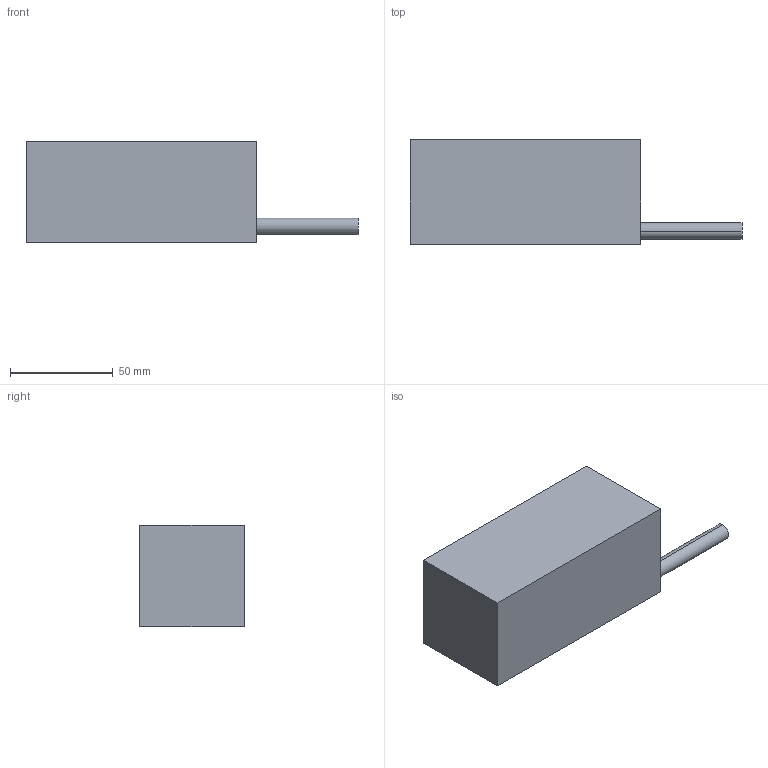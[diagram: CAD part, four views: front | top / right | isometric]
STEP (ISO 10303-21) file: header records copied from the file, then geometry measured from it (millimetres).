
FILE_DESCRIPTION (( 'STEP AP214' ), '1' );
FILE_NAME ('FLM-51-112.STEP', '2022-05-12T07:59:39', ( 'Microsoft' ), ( 'Microsoft' ), 'SwSTEP 2.0', 'SolidWorks 2016', '' );
FILE_SCHEMA (( 'AUTOMOTIVE_DESIGN' ));
Length unit declared in the file: millimetre
Products named in the file (1): FLM-51-112
Bounding box: 161.3 x 51 x 49.3 mm (x, y, z)
Volume: 283579.9 mm3; surface area: 29165.8 mm2
Topology: 1 solids, 1 shells, 45 faces, 102 edges, 54 vertices
Faces by surface type: cone 24, cylinder 14, plane 7
Entity records: 1326 total; most frequent: DIRECTION 222, CARTESIAN_POINT 190, ORIENTED_EDGE 180, EDGE_CURVE 90, AXIS2_PLACEMENT_3D 86, VERTEX_POINT 54, EDGE_LOOP 52, LINE 50
